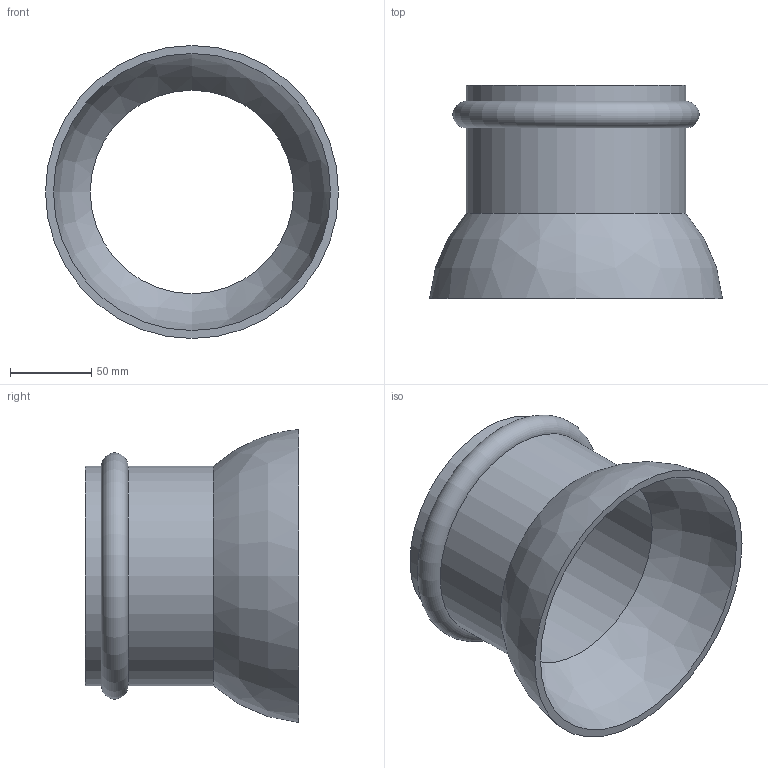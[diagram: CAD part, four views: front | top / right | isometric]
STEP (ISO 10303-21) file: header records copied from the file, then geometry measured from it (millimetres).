
FILE_DESCRIPTION( ( 'STEP AP214' ), '1' );
FILE_NAME( 'C:/Users/ilukic/Documents/ex/gebaudeentwasserung/pe/Geberit PE protecting cap/368.989.16.2.stp', '2020-03-26T18:42:19', ( '' ), ( '' ), ' ', 'PARTsolutions', ' ' );
FILE_SCHEMA( ( 'AUTOMOTIVE_DESIGN { 1 0 10303 214 1 1 1 1 }' ) );
Length unit declared in the file: millimetre
Products named in the file (1): _368.989.16.2
Bounding box: 180 x 131 x 180 mm (x, y, z)
Volume: 323986.2 mm3; surface area: 136749.8 mm2
Topology: 1 solids, 1 shells, 13 faces, 22 edges, 13 vertices
Faces by surface type: plane 4, cylinder 4, bspline 2, torus 2, cone 1
Full cylindrical faces by diameter (mm): 125 x2, 134.8 x2
Entity records: 442 total; most frequent: CARTESIAN_POINT 96, DIRECTION 50, EDGE_LOOP 26, ORIENTED_EDGE 26, AXIS2_PLACEMENT_3D 25, FACE_OUTER_BOUND 21, VERTEX_POINT 15, STYLED_ITEM 13
